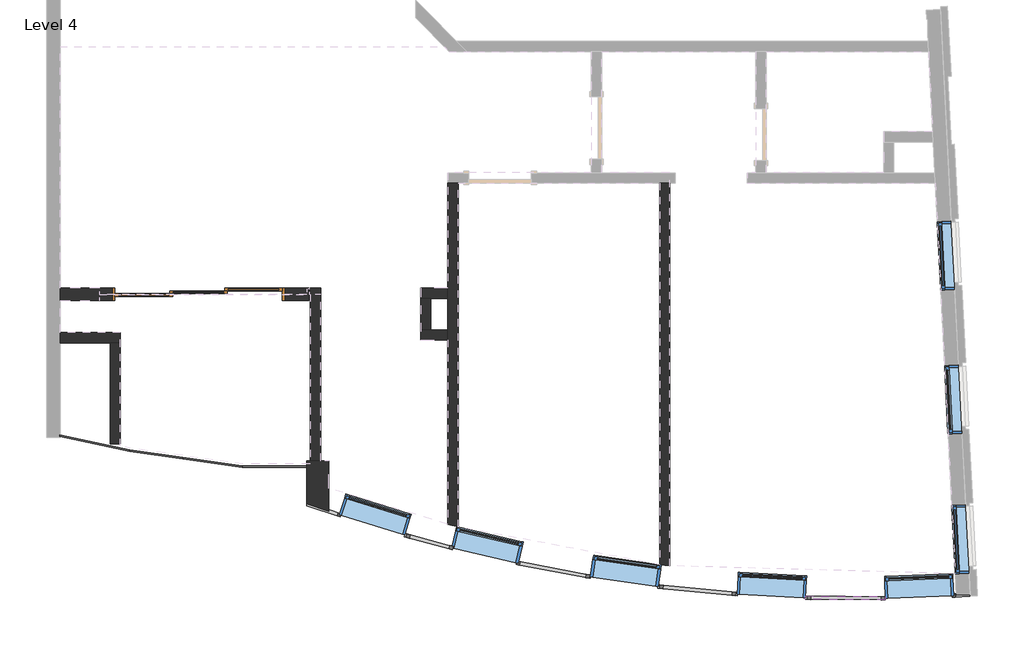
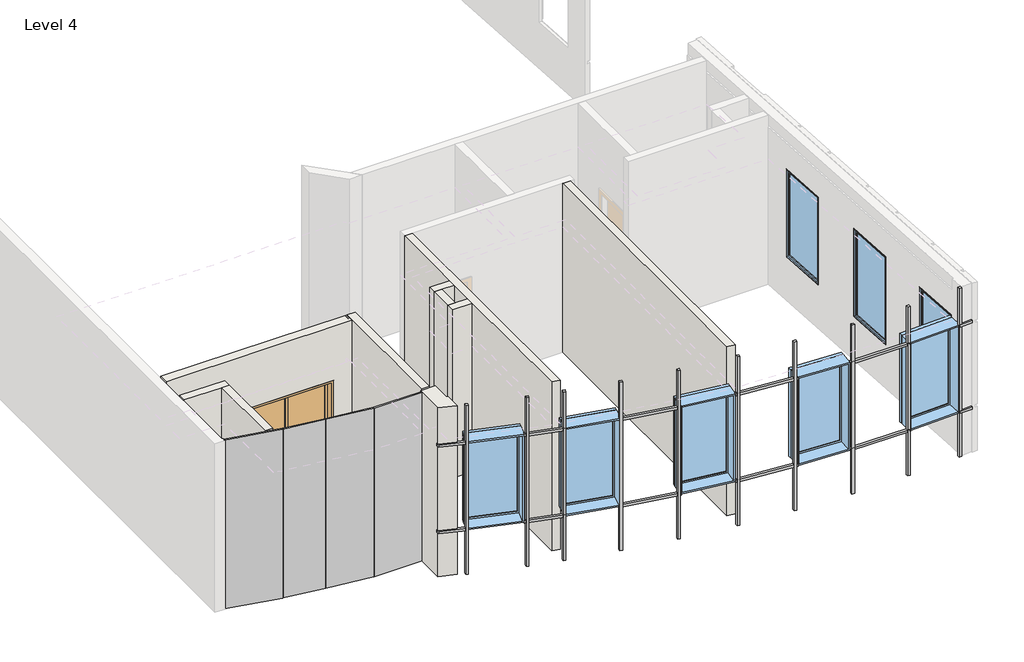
# One storey, part 1 of 5: 12 proxies, 11 walls, 8 windows, 4 plates, 1 door.
"""IFC4 building model written with IfcOpenShell, lengths in millimetres."""

from ifc_helpers import new_model, si_unit, point, frame, frame_2d, origin, place, context, project, spatial, polyline, circle_curve, trimmed, segment, composite_curve, outline, extrude, faceted_brep, transform, mapped, element, save
from ifc_brep_helpers import plane_surface, cylinder_surface, revolved_surface, advanced_brep
from components import sliding_door_3_panel_aus_type_1_135a2ec2, system_panel_glazed_6c35e85d, system_panel_glazed_aacc9fa0, system_panel_glazed_6f96cc8f, system_panel_glazed_6110bdf2, m_fixed_1000_x_1830mm_2_3397196e, m_fixed_1000_x_1830mm_2_ae03b894

model = new_model("IFC4")

# Units and contexts
model_context = context("Model", 3, world=origin())
ifc_project = project(units=[si_unit("LENGTHUNIT", "METRE", prefix="MILLI")], contexts=[model_context])

# Site, building, storey
site = spatial("IfcSite", under=ifc_project)
building = spatial("IfcBuilding", under=site)
storey = spatial("IfcBuildingStorey", under=building, Name="Level 4", Elevation=15000.0)

# Proxies
placement = place(None, origin())
element("IfcBuildingElementProxy", 1, Name="Reveal", ObjectType="Reveal", at=placement, inside=storey, context=model_context, shape_type="SweptSolid", body=[
    extrude(outline(composite_curve([segment(trimmed(circle_curve(frame_2d((11609.3245394, 10843.3737526)), 24025.0), [point((3560.252741, -11793.1690087))], [point((4041.9086857, -11958.7060275))], True, "CARTESIAN"), True, "CONTINUOUS"), segment(polyline([(4041.9086857, -11958.7060275), (4027.1474769, -12006.4887414)]), True, "CONTINUOUS"), segment(trimmed(circle_curve(frame_2d((11609.3245394, 10843.3737526)), 24075.0), [point((4027.1474769, -12006.4887414))], [point((3560.252741, -11846.2288923))], False, "CARTESIAN"), True, "CONTINUOUS"), segment(polyline([(3560.252741, -11846.2288923), (3560.252741, -11793.1690087)]), True, "CONTINUOUS")], self_intersect=False)), frame((0.0, 0.0, 15901.1018524), z_axis=(0.0, 0.0, 1.0), x_axis=(1.0, 0.0, 0.0)), (0.0, 0.0, 1.0), 50.0),
    extrude(outline(composite_curve([segment(trimmed(circle_curve(frame_2d((11609.3245394, 10843.3737526)), 24025.0), [point((13021.5895865, -13140.0816373))], [point((13258.6392504, -13124.9467139))], True, "CARTESIAN"), True, "CONTINUOUS"), segment(polyline([(13258.6392504, -13124.9467139), (13261.1814055, -13174.8900043)]), True, "CONTINUOUS"), segment(trimmed(circle_curve(frame_2d((11609.3245394, 10843.3737526)), 24075.0), [point((13261.1814055, -13174.8900043))], [point((13023.4897345, -13190.0563356))], False, "CARTESIAN"), True, "CONTINUOUS"), segment(polyline([(13023.4897345, -13190.0563356), (13021.5895865, -13140.0816373)]), True, "CONTINUOUS")], self_intersect=False)), frame((0.0, 0.0, 15901.1018524), z_axis=(0.0, 0.0, 1.0), x_axis=(1.0, 0.0, 0.0)), (0.0, 0.0, 1.0), 50.0),
    extrude(outline(composite_curve([segment(trimmed(circle_curve(frame_2d((11609.3245394, 10843.3737526)), 24025.0), [point((10855.1689112, -13169.7866868))], [point((12022.3116475, -13178.0763837))], True, "CARTESIAN"), True, "CONTINUOUS"), segment(polyline([(12022.3116475, -13178.0763837), (12024.2117955, -13228.051082)]), True, "CONTINUOUS"), segment(trimmed(circle_curve(frame_2d((11609.3245394, 10843.3737526)), 24075.0), [point((12024.2117955, -13228.051082))], [point((10852.5590945, -13219.7293528))], False, "CARTESIAN"), True, "CONTINUOUS"), segment(polyline([(10852.5590945, -13219.7293528), (10855.1689112, -13169.7866868)]), True, "CONTINUOUS")], self_intersect=False)), frame((0.0, 0.0, 15901.1018524), z_axis=(0.0, 0.0, 1.0), x_axis=(1.0, 0.0, 0.0)), (0.0, 0.0, 1.0), 50.0),
    extrude(outline(composite_curve([segment(trimmed(circle_curve(frame_2d((11609.3245394, 10843.3737526)), 24025.0), [point((8701.6675401, -13005.0256858))], [point((9856.5314794, -13117.6016343))], True, "CARTESIAN"), True, "CONTINUOUS"), segment(polyline([(9856.5314794, -13117.6016343), (9853.9216627, -13167.5443003)]), True, "CONTINUOUS"), segment(trimmed(circle_curve(frame_2d((11609.3245394, 10843.3737526)), 24075.0), [point((9853.9216627, -13167.5443003))], [point((8694.5830706, -13054.5321634))], False, "CARTESIAN"), True, "CONTINUOUS"), segment(polyline([(8694.5830706, -13054.5321634), (8701.6675401, -13005.0256858)]), True, "CONTINUOUS")], self_intersect=False)), frame((0.0, 0.0, 15901.1018524), z_axis=(0.0, 0.0, 1.0), x_axis=(1.0, 0.0, 0.0)), (0.0, 0.0, 1.0), 50.0),
    extrude(outline(composite_curve([segment(trimmed(circle_curve(frame_2d((11609.3245394, 10843.3737526)), 24025.0), [point((6655.6118444, -12665.3768636))], [point((7711.7519914, -12863.3669182))], True, "CARTESIAN"), True, "CONTINUOUS"), segment(polyline([(7711.7519914, -12863.3669182), (7704.6675219, -12912.8733958)]), True, "CONTINUOUS"), segment(trimmed(circle_curve(frame_2d((11609.3245394, 10843.3737526)), 24075.0), [point((7704.6675219, -12912.8733958))], [point((6644.2839105, -12714.0878372))], False, "CARTESIAN"), True, "CONTINUOUS"), segment(polyline([(6644.2839105, -12714.0878372), (6655.6118444, -12665.3768636)]), True, "CONTINUOUS")], self_intersect=False)), frame((0.0, 0.0, 15901.1018524), z_axis=(0.0, 0.0, 1.0), x_axis=(1.0, 0.0, 0.0)), (0.0, 0.0, 1.0), 50.0),
    extrude(outline(composite_curve([segment(trimmed(circle_curve(frame_2d((11609.3245394, 10843.3737526)), 24025.0), [point((4997.3564116, -12253.8663959))], [point((5681.6029373, -12438.8671535))], True, "CARTESIAN"), True, "CONTINUOUS"), segment(polyline([(5681.6029373, -12438.8671535), (5670.2750034, -12487.578127)]), True, "CONTINUOUS"), segment(trimmed(circle_curve(frame_2d((11609.3245394, 10843.3737526)), 24075.0), [point((5670.2750034, -12487.578127))], [point((4982.5952028, -12301.6491098))], False, "CARTESIAN"), True, "CONTINUOUS"), segment(polyline([(4982.5952028, -12301.6491098), (4997.3564116, -12253.8663959)]), True, "CONTINUOUS")], self_intersect=False)), frame((0.0, 0.0, 15901.1018524), z_axis=(0.0, 0.0, 1.0), x_axis=(1.0, 0.0, 0.0)), (0.0, 0.0, 1.0), 50.0),
])
element("IfcBuildingElementProxy", 2, Name="Reveal", ObjectType="Reveal", at=placement, inside=storey, context=model_context, shape_type="SweptSolid", body=[
    extrude(outline(composite_curve([segment(trimmed(circle_curve(frame_2d((11609.3245394, 10843.3737526)), 24025.0), [point((3560.252741, -11793.1690087))], [point((4041.9086857, -11958.7060275))], True, "CARTESIAN"), True, "CONTINUOUS"), segment(polyline([(4041.9086857, -11958.7060275), (4027.1474769, -12006.4887414)]), True, "CONTINUOUS"), segment(trimmed(circle_curve(frame_2d((11609.3245394, 10843.3737526)), 24075.0), [point((4027.1474769, -12006.4887414))], [point((3560.252741, -11846.2288923))], False, "CARTESIAN"), True, "CONTINUOUS"), segment(polyline([(3560.252741, -11846.2288923), (3560.252741, -11793.1690087)]), True, "CONTINUOUS")], self_intersect=False)), frame((0.0, 0.0, 17695.0), z_axis=(0.0, 0.0, 1.0), x_axis=(1.0, 0.0, 0.0)), (0.0, 0.0, 1.0), 50.0),
    extrude(outline(composite_curve([segment(trimmed(circle_curve(frame_2d((11609.3245394, 10843.3737526)), 24025.0), [point((13021.5895865, -13140.0816373))], [point((13258.6392504, -13124.9467139))], True, "CARTESIAN"), True, "CONTINUOUS"), segment(polyline([(13258.6392504, -13124.9467139), (13261.1814055, -13174.8900043)]), True, "CONTINUOUS"), segment(trimmed(circle_curve(frame_2d((11609.3245394, 10843.3737526)), 24075.0), [point((13261.1814055, -13174.8900043))], [point((13023.4897345, -13190.0563356))], False, "CARTESIAN"), True, "CONTINUOUS"), segment(polyline([(13023.4897345, -13190.0563356), (13021.5895865, -13140.0816373)]), True, "CONTINUOUS")], self_intersect=False)), frame((0.0, 0.0, 17695.0), z_axis=(0.0, 0.0, 1.0), x_axis=(1.0, 0.0, 0.0)), (0.0, 0.0, 1.0), 50.0),
    extrude(outline(composite_curve([segment(trimmed(circle_curve(frame_2d((11609.3245394, 10843.3737526)), 24025.0), [point((10855.1689112, -13169.7866868))], [point((12022.3116475, -13178.0763837))], True, "CARTESIAN"), True, "CONTINUOUS"), segment(polyline([(12022.3116475, -13178.0763837), (12024.2117955, -13228.051082)]), True, "CONTINUOUS"), segment(trimmed(circle_curve(frame_2d((11609.3245394, 10843.3737526)), 24075.0), [point((12024.2117955, -13228.051082))], [point((10852.5590945, -13219.7293528))], False, "CARTESIAN"), True, "CONTINUOUS"), segment(polyline([(10852.5590945, -13219.7293528), (10855.1689112, -13169.7866868)]), True, "CONTINUOUS")], self_intersect=False)), frame((0.0, 0.0, 17695.0), z_axis=(0.0, 0.0, 1.0), x_axis=(1.0, 0.0, 0.0)), (0.0, 0.0, 1.0), 50.0),
    extrude(outline(composite_curve([segment(trimmed(circle_curve(frame_2d((11609.3245394, 10843.3737526)), 24025.0), [point((8701.6675401, -13005.0256858))], [point((9856.5314794, -13117.6016343))], True, "CARTESIAN"), True, "CONTINUOUS"), segment(polyline([(9856.5314794, -13117.6016343), (9853.9216627, -13167.5443003)]), True, "CONTINUOUS"), segment(trimmed(circle_curve(frame_2d((11609.3245394, 10843.3737526)), 24075.0), [point((9853.9216627, -13167.5443003))], [point((8694.5830706, -13054.5321634))], False, "CARTESIAN"), True, "CONTINUOUS"), segment(polyline([(8694.5830706, -13054.5321634), (8701.6675401, -13005.0256858)]), True, "CONTINUOUS")], self_intersect=False)), frame((0.0, 0.0, 17695.0), z_axis=(0.0, 0.0, 1.0), x_axis=(1.0, 0.0, 0.0)), (0.0, 0.0, 1.0), 50.0),
    extrude(outline(composite_curve([segment(trimmed(circle_curve(frame_2d((11609.3245394, 10843.3737526)), 24025.0), [point((6655.6118444, -12665.3768636))], [point((7711.7519914, -12863.3669182))], True, "CARTESIAN"), True, "CONTINUOUS"), segment(polyline([(7711.7519914, -12863.3669182), (7704.6675219, -12912.8733958)]), True, "CONTINUOUS"), segment(trimmed(circle_curve(frame_2d((11609.3245394, 10843.3737526)), 24075.0), [point((7704.6675219, -12912.8733958))], [point((6644.2839105, -12714.0878372))], False, "CARTESIAN"), True, "CONTINUOUS"), segment(polyline([(6644.2839105, -12714.0878372), (6655.6118444, -12665.3768636)]), True, "CONTINUOUS")], self_intersect=False)), frame((0.0, 0.0, 17695.0), z_axis=(0.0, 0.0, 1.0), x_axis=(1.0, 0.0, 0.0)), (0.0, 0.0, 1.0), 50.0),
    extrude(outline(composite_curve([segment(trimmed(circle_curve(frame_2d((11609.3245394, 10843.3737526)), 24025.0), [point((4997.3564116, -12253.8663959))], [point((5681.6029373, -12438.8671535))], True, "CARTESIAN"), True, "CONTINUOUS"), segment(polyline([(5681.6029373, -12438.8671535), (5670.2750034, -12487.578127)]), True, "CONTINUOUS"), segment(trimmed(circle_curve(frame_2d((11609.3245394, 10843.3737526)), 24075.0), [point((5670.2750034, -12487.578127))], [point((4982.5952028, -12301.6491098))], False, "CARTESIAN"), True, "CONTINUOUS"), segment(polyline([(4982.5952028, -12301.6491098), (4997.3564116, -12253.8663959)]), True, "CONTINUOUS")], self_intersect=False)), frame((0.0, 0.0, 17695.0), z_axis=(0.0, 0.0, 1.0), x_axis=(1.0, 0.0, 0.0)), (0.0, 0.0, 1.0), 50.0),
])
element("IfcBuildingElementProxy", 3, Name="Reveal", ObjectType="Reveal", at=placement, inside=storey, context=model_context, shape_type="SweptSolid", body=[
    extrude(outline(polyline([(10930.2286023, -13172.0396044), (10928.7632845, -13222.0181283), (10878.7847607, -13220.5528105), (10880.2500785, -13170.5742866), (10930.2286023, -13172.0396044)])), frame((0.0, 0.0, 15000.0), z_axis=(0.0, 0.0, 1.0), x_axis=(1.0, 0.0, 0.0)), (0.0, 0.0, 1.0), 3500.0),
])
element("IfcBuildingElementProxy", 4, Name="Reveal", ObjectType="Reveal", at=placement, inside=storey, context=model_context, shape_type="SweptSolid", body=[
    extrude(outline(polyline([(9833.8791093, -13115.9468456), (9830.1322307, -13165.8062569), (9780.2728194, -13162.0593784), (9784.0196979, -13112.199967), (9833.8791093, -13115.9468456)])), frame((0.0, 0.0, 15000.0), z_axis=(0.0, 0.0, 1.0), x_axis=(1.0, 0.0, 0.0)), (0.0, 0.0, 1.0), 3500.0),
])
element("IfcBuildingElementProxy", 5, Name="Reveal", ObjectType="Reveal", at=placement, inside=storey, context=model_context, shape_type="SweptSolid", body=[
    extrude(outline(polyline([(8775.1009531, -13013.8772765), (8769.1508054, -13063.5219715), (8719.5061104, -13057.5718239), (8725.456258, -13007.9271288), (8775.1009531, -13013.8772765)])), frame((0.0, 0.0, 15000.0), z_axis=(0.0, 0.0, 1.0), x_axis=(1.0, 0.0, 0.0)), (0.0, 0.0, 1.0), 3500.0),
])
element("IfcBuildingElementProxy", 6, Name="Reveal", ObjectType="Reveal", at=placement, inside=storey, context=model_context, shape_type="SweptSolid", body=[
    extrude(outline(polyline([(5071.1541458, -12274.8782987), (5057.4970808, -12322.9769948), (5009.3983846, -12309.3199298), (5023.0554496, -12261.2212336), (5071.1541458, -12274.8782987)])), frame((0.0, 0.0, 15000.0), z_axis=(0.0, 0.0, 1.0), x_axis=(1.0, 0.0, 0.0)), (0.0, 0.0, 1.0), 3500.0),
])
element("IfcBuildingElementProxy", 7, Name="Reveal", ObjectType="Reveal", at=placement, inside=storey, context=model_context, shape_type="SweptSolid", body=[
    extrude(outline(polyline([(5700.3597547, -12443.6480659), (5688.0118038, -12492.0993621), (5639.5605075, -12479.7514112), (5651.9084585, -12431.3001149), (5700.3597547, -12443.6480659)])), frame((0.0, 0.0, 15000.0), z_axis=(0.0, 0.0, 1.0), x_axis=(1.0, 0.0, 0.0)), (0.0, 0.0, 1.0), 3500.0),
])
element("IfcBuildingElementProxy", 8, Name="Reveal", ObjectType="Reveal", at=placement, inside=storey, context=model_context, shape_type="SweptSolid", body=[
    extrude(outline(polyline([(6679.5658779, -12670.4249524), (6669.2553236, -12719.350329), (6620.329947, -12709.0397746), (6630.6405014, -12660.1143981), (6679.5658779, -12670.4249524)])), frame((0.0, 0.0, 15000.0), z_axis=(0.0, 0.0, 1.0), x_axis=(1.0, 0.0, 0.0)), (0.0, 0.0, 1.0), 3500.0),
])
element("IfcBuildingElementProxy", 9, Name="Reveal", ObjectType="Reveal", at=placement, inside=storey, context=model_context, shape_type="SweptSolid", body=[
    extrude(outline(polyline([(7698.414481, -12861.1834573), (7690.2239038, -12910.5080398), (7640.8993212, -12902.3174626), (7649.0898984, -12852.9928801), (7698.414481, -12861.1834573)])), frame((0.0, 0.0, 15000.0), z_axis=(0.0, 0.0, 1.0), x_axis=(1.0, 0.0, 0.0)), (0.0, 0.0, 1.0), 3500.0),
])
element("IfcBuildingElementProxy", 10, Name="Reveal", ObjectType="Reveal", at=placement, inside=storey, context=model_context, shape_type="SweptSolid", body=[
    extrude(outline(polyline([(12013.3333991, -13178.2420724), (12014.1221857, -13228.2358501), (11964.1284079, -13229.0246368), (11963.3396213, -13179.030859), (12013.3333991, -13178.2420724)])), frame((0.0, 0.0, 15000.0), z_axis=(0.0, 0.0, 1.0), x_axis=(1.0, 0.0, 0.0)), (0.0, 0.0, 1.0), 3500.0),
])
element("IfcBuildingElementProxy", 11, Name="Reveal", ObjectType="Reveal", at=placement, inside=storey, context=model_context, shape_type="SweptSolid", body=[
    extrude(outline(polyline([(13046.0274649, -13138.6431498), (13048.9655422, -13188.5567521), (12999.0519398, -13191.4948294), (12996.1138625, -13141.581227), (13046.0274649, -13138.6431498)])), frame((0.0, 0.0, 15000.0), z_axis=(0.0, 0.0, 1.0), x_axis=(1.0, 0.0, 0.0)), (0.0, 0.0, 1.0), 3500.0),
])
element("IfcBuildingElementProxy", 12, Name="Reveal", ObjectType="Reveal", at=placement, inside=storey, context=model_context, shape_type="SweptSolid", body=[
    extrude(outline(polyline([(4066.129757, -11966.7437937), (4050.3817395, -12014.1990352), (4002.926498, -11998.4510177), (4018.6745155, -11950.9957762), (4066.129757, -11966.7437937)])), frame((0.0, 0.0, 15000.0), z_axis=(0.0, 0.0, 1.0), x_axis=(1.0, 0.0, 0.0)), (0.0, 0.0, 1.0), 3500.0),
])

# Door
sliding_door_3_panel_aus_type_1_shape = sliding_door_3_panel_aus_type_1_135a2ec2(model_context)
element("IfcDoor", 13, ObjectType="Sliding Door - 3 Panel (AUS) : Type 1", at=placement, inside=storey, context=model_context, shape_type="MappedRepresentation", body=[
    mapped(sliding_door_3_panel_aus_type_1_shape, transform((2060.7158708, -8752.2362629, 15000.0), x_axis=(-1.0, 0.0, 0.0), y_axis=(0.0, -1.0, 0.0), z_axis=(0.0, 0.0, 1.0))),
])

# Plates
system_panel_glazed_shape = system_panel_glazed_6c35e85d(model_context)
element("IfcPlate", 14, ObjectType="System Panel : Glazed", at=placement, inside=storey, context=model_context, shape_type="MappedRepresentation", body=[
    mapped(system_panel_glazed_shape, transform((3090.252741, -11236.9456492, 15000.0), x_axis=(-1.0, 0.0, 0.0), y_axis=(0.0, -1.0, 0.0), z_axis=(0.0, 0.0, 1.0))),
])
system_panel_glazed_2_shape = system_panel_glazed_aacc9fa0(model_context)
element("IfcPlate", 15, ObjectType="System Panel : Glazed", at=placement, inside=storey, context=model_context, shape_type="MappedRepresentation", body=[
    mapped(system_panel_glazed_2_shape, transform((2183.3563773, -11175.5438696, 15000.0), x_axis=(-0.9902680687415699, 0.1391731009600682, 0.0), y_axis=(-0.1391731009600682, -0.9902680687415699, 0.0), z_axis=(0.0, 0.0, 1.0))),
])
system_panel_glazed_3_shape = system_panel_glazed_6f96cc8f(model_context)
element("IfcPlate", 16, ObjectType="System Panel : Glazed", at=placement, inside=storey, context=model_context, shape_type="MappedRepresentation", body=[
    mapped(system_panel_glazed_3_shape, transform((1360.2554668, -11059.8645806, 15000.0), x_axis=(-0.9902680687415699, 0.13917310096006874, 0.0), y_axis=(-0.13917310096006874, -0.9902680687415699, 0.0), z_axis=(0.0, 0.0, 1.0))),
])
system_panel_glazed_4_shape = system_panel_glazed_6110bdf2(model_context)
element("IfcPlate", 17, ObjectType="System Panel : Glazed", at=placement, inside=storey, context=model_context, shape_type="MappedRepresentation", body=[
    mapped(system_panel_glazed_4_shape, transform((462.0043948, -10896.7482224, 15000.0), x_axis=(-0.9781476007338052, 0.20791169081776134, 0.0), y_axis=(-0.20791169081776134, -0.9781476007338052, 0.0), z_axis=(0.0, 0.0, 1.0))),
])

# Walls
element("IfcWall", 18, ObjectType="Generic - 20cm-gypsum-kamposite", at=placement, inside=storey, context=model_context, shape_type="AdvancedBrep", body=[
    advanced_brep(
    [(3880.252741, -11930.821055, 15000.0), (3880.252741, -11592.6318887, 15000.0), (3880.252741, -11189.3160932, 15000.0), (3880.252741, -11189.3160932, 18259.0), (3880.252741, -11592.6318887, 18259.0), (3880.252741, -11624.3597587, 18259.0), (3880.252741, -11624.3597587, 18500.0), (3880.252741, -11930.821055, 18500.0), (3880.252741, -11930.821055, 17745.0), (3880.252741, -11904.4189785, 17745.0), (3880.252741, -11904.4189785, 17695.0), (3880.252741, -11930.821055, 17695.0), (3880.252741, -11930.821055, 15951.1018524), (3880.252741, -11904.4189785, 15951.1018524), (3880.252741, -11904.4189785, 15901.1018524), (3880.252741, -11930.821055, 15901.1018524), (3560.252741, -11189.3160932, 15000.0), (3560.252741, -11819.7006899, 15000.0), (3560.252741, -11819.7006899, 15901.1018524), (3560.252741, -11793.1690087, 15901.1018524), (3560.252741, -11793.1690087, 15951.1018524), (3560.252741, -11819.7006899, 15951.1018524), (3560.252741, -11819.7006899, 17695.0), (3560.252741, -11793.1690087, 17695.0), (3560.252741, -11793.1690087, 17745.0), (3560.252741, -11819.7006899, 17745.0), (3560.252741, -11819.7006899, 18500.0), (3560.252741, -11236.9456492, 18500.0), (3560.252741, -11236.9456492, 18259.0), (3560.252741, -11189.3160932, 18259.0), (3610.252741, -11189.3160932, 15000.0), (3760.252741, -11189.3160932, 15000.0), (3850.252741, -11614.0171205, 18500.0), (3850.252741, -11236.9456492, 18500.0), (3850.252741, -11236.9456492, 18259.0), (3850.252741, -11614.0171205, 18259.0)],
    [
        (0, 1),
        (1, 2),
        (2, 3),
        (3, 4),
        (4, 5),
        (5, 6),
        (6, 7),
        (7, 8),
        (8, 9),
        (9, 10),
        (10, 11),
        (11, 12),
        (12, 13),
        (13, 14),
        (14, 15),
        (15, 0),
        (16, 17),
        (17, 18),
        (18, 19),
        (19, 20),
        (20, 21),
        (21, 22),
        (22, 23),
        (23, 24),
        (24, 25),
        (25, 26),
        (26, 27),
        (27, 28),
        (28, 29),
        (29, 16),
        (0, 17, circle_curve(frame((11609.3245394, 10843.3737526, 15000.0), z_axis=(0.0, 0.0, -1.0), x_axis=(-0.33468074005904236, -0.942331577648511, 0.0)), 24050.0)),
        (16, 30),
        (30, 31),
        (31, 2),
        (29, 3),
        (26, 7, circle_curve(frame((11609.3245394, 10843.3737526, 18500.0), z_axis=(0.0, 0.0, 1.0), x_axis=(-0.33468074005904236, -0.942331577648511, 0.0)), 24050.0)),
        (6, 32, circle_curve(frame((11609.3245394, 10843.3737526, 18500.0), z_axis=(0.0, 0.0, -1.0), x_axis=(1.0, 0.0, 0.0)), 23760.0)),
        (32, 33),
        (33, 27),
        (25, 8, circle_curve(frame((11609.3245394, 10843.3737526, 17745.0), z_axis=(0.0, 0.0, 1.0), x_axis=(-0.33468074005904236, -0.942331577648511, 0.0)), 24050.0)),
        (15, 18, circle_curve(frame((11609.3245394, 10843.3737526, 15901.1018524), z_axis=(0.0, 0.0, -1.0), x_axis=(-0.33468074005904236, -0.942331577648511, 0.0)), 24050.0)),
        (21, 12, circle_curve(frame((11609.3245394, 10843.3737526, 15951.1018524), z_axis=(0.0, 0.0, 1.0), x_axis=(-0.33468074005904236, -0.942331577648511, 0.0)), 24050.0)),
        (11, 22, circle_curve(frame((11609.3245394, 10843.3737526, 17695.0), z_axis=(0.0, 0.0, -1.0), x_axis=(-0.33468074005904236, -0.942331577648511, 0.0)), 24050.0)),
        (20, 13, circle_curve(frame((11609.3245394, 10843.3737526, 15951.1018524), z_axis=(0.0, 0.0, 1.0), x_axis=(-0.3149603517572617, -0.9491048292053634, 0.0)), 24025.0)),
        (14, 19, circle_curve(frame((11609.3245394, 10843.3737526, 15901.1018524), z_axis=(0.0, 0.0, -1.0), x_axis=(-0.3149603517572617, -0.9491048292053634, 0.0)), 24025.0)),
        (24, 9, circle_curve(frame((11609.3245394, 10843.3737526, 17745.0), z_axis=(0.0, 0.0, 1.0), x_axis=(-0.3149603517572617, -0.9491048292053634, 0.0)), 24025.0)),
        (10, 23, circle_curve(frame((11609.3245394, 10843.3737526, 17695.0), z_axis=(0.0, 0.0, -1.0), x_axis=(-0.3149603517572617, -0.9491048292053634, 0.0)), 24025.0)),
        (34, 35),
        (35, 5, circle_curve(frame((11609.3245394, 10843.3737526, 18259.0), z_axis=(0.0, 0.0, 1.0), x_axis=(1.0, 0.0, 0.0)), 23760.0)),
        (28, 34),
        (35, 32),
        (34, 33),
    ],
    [
        plane_surface(frame((3880.252741, -11283.4147586, 15000.0), z_axis=(1.0, 0.0, 0.0), x_axis=(0.0, 1.0, 0.0))),
        plane_surface(frame((3560.252741, -11283.4147586, 15000.0), z_axis=(-1.0, 0.0, 0.0), x_axis=(0.0, -1.0, 0.0))),
        plane_surface(frame((3880.252741, -11706.4521039, 15000.0), z_axis=(0.0, 0.0, -1.0), x_axis=(-1.0, 0.0, 0.0))),
        plane_surface(frame((3880.252741, -11189.3160932, 15000.0), z_axis=(0.0, 1.0, 0.0), x_axis=(-1.0, 0.0, 0.0))),
        plane_surface(frame((3880.252741, -11189.3160932, 18500.0), z_axis=(0.0, 0.0, 1.0), x_axis=(-1.0, 0.0, 0.0))),
        cylinder_surface(frame((11609.3245394, 10843.3737526, 15000.0), z_axis=(0.0, 0.0, 1.0), x_axis=(-0.33468074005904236, -0.942331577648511, 0.0)), 24050.0),
        plane_surface(frame((11609.3245394, 10843.3737526, 15951.1018524), z_axis=(0.0, 0.0, -1.0), x_axis=(-0.3149603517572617, -0.9491048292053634, 0.0))),
        plane_surface(frame((11609.3245394, 10843.3737526, 15901.1018524), z_axis=(0.0, 0.0, 1.0), x_axis=(-0.3149603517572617, -0.9491048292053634, 0.0))),
        cylinder_surface(frame((11609.3245394, 10843.3737526, 15926.1018524), z_axis=(0.0, 0.0, -1.0), x_axis=(-0.3149603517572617, -0.9491048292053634, 0.0)), 24025.0),
        plane_surface(frame((11609.3245394, 10843.3737526, 17745.0), z_axis=(0.0, 0.0, -1.0), x_axis=(-0.3149603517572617, -0.9491048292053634, 0.0))),
        plane_surface(frame((11609.3245394, 10843.3737526, 17695.0), z_axis=(0.0, 0.0, 1.0), x_axis=(-0.3149603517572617, -0.9491048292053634, 0.0))),
        cylinder_surface(frame((11609.3245394, 10843.3737526, 17720.0), z_axis=(0.0, 0.0, -1.0), x_axis=(-0.3149603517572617, -0.9491048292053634, 0.0)), 24025.0),
        plane_surface(frame((-80.0421304, 14944.8648867, 18259.0), z_axis=(0.0, 0.0, 1.0), x_axis=(0.9323005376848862, -0.36168454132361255, 0.0))),
        revolved_surface(polyline([(35369.3245394, 10843.3737526, 18259.0), (35369.3245394, 10843.3737526, 18500.0)]), (11609.3245394, 10843.3737526, 18500.0), (0.0, 0.0, -1.0)),
        plane_surface(frame((3850.252741, -11614.0171205, 18259.0), z_axis=(1.0, 0.0, 0.0), x_axis=(0.0, 0.0, 1.0))),
        plane_surface(frame((3850.252741, -11236.9456492, 18259.0), z_axis=(0.0, 1.0, 0.0), x_axis=(0.0, 0.0, 1.0))),
    ],
    [
        (0, [[1, 2, 3, 4, 5, 6, 7, 8, 9, 10, 11, 12, 13, 14, 15, 16]]),
        (1, [[17, 18, 19, 20, 21, 22, 23, 24, 25, 26, 27, 28, 29, 30]]),
        (2, [[-2, -1, 31, -17, 32, 33, 34]]),
        (3, [[-34, -33, -32, -30, 35, -3]]),
        (4, [[36, -7, 37, 38, 39, -27]]),
        (5, [[-36, -26, 40, -8]]),
        (5, [[-31, -16, 41, -18]]),
        (5, [[42, -12, 43, -22]]),
        (6, [[44, -13, -42, -21]]),
        (7, [[45, -19, -41, -15]]),
        (8, [[-44, -20, -45, -14]]),
        (9, [[46, -9, -40, -25]]),
        (10, [[47, -23, -43, -11]]),
        (11, [[-46, -24, -47, -10]]),
        (12, [[48, 49, -5, -4, -35, -29, 50]]),
        (13, [[51, -37, -6, -49]]),
        (14, [[-48, 52, -38, -51]]),
        (15, [[-52, -50, -28, -39]]),
    ],
),
])
element("IfcWall", 19, ObjectType="Generic - 15cm-gypsu-2boith", at=placement, inside=storey, context=model_context, shape_type="SweptSolid", body=[
    extrude(outline(composite_curve([segment(polyline([(8720.2907737, -12710.1054788), (8720.2907737, -7123.7981953), (8870.2907737, -7123.7981953), (8870.2907737, -12728.0198004)]), True, "CONTINUOUS"), segment(trimmed(circle_curve(frame_2d((11609.3245394, 10843.3737526)), 23730.0), [point((8870.2907737, -12728.0198004))], [point((8720.2907737, -12710.1054788))], False, "CARTESIAN"), True, "CONTINUOUS")], self_intersect=False)), frame((0.0, 0.0, 15000.0), z_axis=(0.0, 0.0, 1.0), x_axis=(1.0, 0.0, 0.0)), (0.0, 0.0, 1.0), 3500.0),
])
element("IfcWall", 20, ObjectType="Generic - 15cm-gypsu-2boith", at=placement, inside=storey, context=model_context, shape_type="AdvancedBrep", body=[
    advanced_brep(
    [(5620.2907737, -7123.7981953, 15000.0), (5620.2907737, -8662.29082, 15000.0), (5620.2907737, -8812.29082, 15000.0), (5620.2907737, -9272.4272222, 15000.0), (5620.2907737, -9422.4272222, 15000.0), (5620.2907737, -12118.4287584, 15000.0), (5620.2907737, -12118.4287584, 18500.0), (5620.2907737, -9422.4272222, 18500.0), (5620.2907737, -9272.4272222, 18500.0), (5620.2907737, -8812.29082, 18500.0), (5620.2907737, -8662.29082, 18500.0), (5620.2907737, -7123.7981953, 18500.0), (5770.2907737, -7123.7981953, 15000.0), (5770.2907737, -7123.7981953, 18500.0), (5770.2907737, -12157.0302587, 18500.0), (5770.2907737, -12157.0302587, 15000.0)],
    [
        (0, 1),
        (1, 2),
        (2, 3),
        (3, 4),
        (4, 5),
        (5, 6),
        (6, 7),
        (7, 8),
        (8, 9),
        (9, 10),
        (10, 11),
        (11, 0),
        (12, 13),
        (13, 14),
        (14, 15),
        (15, 12),
        (0, 12),
        (15, 5, circle_curve(frame((11609.3245394, 10843.3737526, 15000.0), z_axis=(0.0, 0.0, -1.0), x_axis=(-0.33468074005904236, -0.942331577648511, 0.0)), 23730.0)),
        (6, 14, circle_curve(frame((11609.3245394, 10843.3737526, 18500.0), z_axis=(0.0, 0.0, 1.0), x_axis=(-0.33468074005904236, -0.942331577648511, 0.0)), 23730.0)),
        (13, 11),
    ],
    [
        plane_surface(frame((5620.2907737, -7123.7981953, 15000.0), z_axis=(-1.0, 0.0, 0.0), x_axis=(0.0, -1.0, 0.0))),
        plane_surface(frame((5770.2907737, -7123.7981953, 15000.0), z_axis=(1.0, 0.0, 0.0), x_axis=(0.0, 1.0, 0.0))),
        plane_surface(frame((5620.2907737, -7048.7981953, 15000.0), z_axis=(0.0, 0.0, -1.0), x_axis=(1.0, 0.0, 0.0))),
        plane_surface(frame((5620.2907737, -12303.036436, 18500.0), z_axis=(0.0, 0.0, 1.0), x_axis=(1.0, 0.0, 0.0))),
        cylinder_surface(frame((11609.3245394, 10843.3737526, 15000.0), z_axis=(0.0, 0.0, -1.0), x_axis=(-0.33468074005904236, -0.942331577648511, 0.0)), 23730.0),
        plane_surface(frame((8730.3395953, -7123.7981953, 15000.0), z_axis=(0.0, 1.0, 0.0), x_axis=(1.0, 0.0, 0.0))),
    ],
    [
        (0, [[1, 2, 3, 4, 5, 6, 7, 8, 9, 10, 11, 12]]),
        (1, [[13, 14, 15, 16]]),
        (2, [[-5, -4, -3, -2, -1, 17, -16, 18]]),
        (3, [[-11, -10, -9, -8, -7, 19, -14, 20]]),
        (4, [[-6, -18, -15, -19]]),
        (5, [[-12, -20, -13, -17]]),
    ],
),
])
element("IfcWall", 21, ObjectType="Generic - 15cm-gypsu-2boith", at=placement, inside=storey, context=model_context, shape_type="Brep", body=[
    faceted_brep([(5620.2907737, -9272.4272222, 15000.0), (5373.5699518, -9272.4272222, 15000.0), (5223.5699518, -9272.4272222, 15000.0), (5223.5699518, -9272.4272222, 18500.0), (5373.5699518, -9272.4272222, 18500.0), (5620.2907737, -9272.4272222, 18500.0), (5620.2907737, -9422.4272222, 15000.0), (5620.2907737, -9422.4272222, 18500.0), (5223.5699518, -9422.4272222, 18500.0), (5223.5699518, -9422.4272222, 15000.0)], [[[0, 1, 2, 3, 4, 5]], [[6, 7, 8, 9]], [[2, 1, 0, 6, 9]], [[5, 4, 3, 8, 7]], [[0, 5, 7, 6]], [[3, 2, 9, 8]]]),
])
element("IfcWall", 22, ObjectType="Generic - 15cm-gypsu-2boith", at=placement, inside=storey, context=model_context, shape_type="SweptSolid", body=[
    extrude(outline(polyline([(5373.5699518, -8812.29082), (5373.5699518, -9272.4272222), (5223.5699518, -9272.4272222), (5223.5699518, -8812.29082), (5373.5699518, -8812.29082)])), frame((0.0, 0.0, 15000.0), z_axis=(0.0, 0.0, 1.0), x_axis=(1.0, 0.0, 0.0)), (0.0, 0.0, 1.0), 3500.0),
])
element("IfcWall", 23, ObjectType="Generic - 15cm-gypsu-2boith", at=placement, inside=storey, context=model_context, shape_type="Brep", body=[
    faceted_brep([(5223.5699518, -8812.29082, 15000.0), (5373.5699518, -8812.29082, 15000.0), (5620.2907737, -8812.29082, 15000.0), (5620.2907737, -8812.29082, 18500.0), (5373.5699518, -8812.29082, 18500.0), (5223.5699518, -8812.29082, 18500.0), (5223.5699518, -8662.29082, 15000.0), (5223.5699518, -8662.29082, 18500.0), (5620.2907737, -8662.29082, 18500.0), (5620.2907737, -8662.29082, 15000.0)], [[[0, 1, 2, 3, 4, 5]], [[6, 7, 8, 9]], [[2, 1, 0, 6, 9]], [[5, 4, 3, 8, 7]], [[0, 5, 7, 6]], [[3, 2, 9, 8]]]),
])
element("IfcWall", 24, ObjectType="Generic - 10cm-gypsu-2boith", at=placement, inside=storey, context=model_context, shape_type="SweptSolid", body=[
    extrude(outline(polyline([(3557.6788606, -8673.6141586), (3600.5670169, -8673.6141586), (3600.5670169, -8773.6141586), (3557.6788606, -8773.6141586), (3557.6788606, -8673.6141586)])), frame((0.0, 0.0, 15000.0), z_axis=(0.0, 0.0, 1.0), x_axis=(1.0, 0.0, 0.0)), (0.0, 0.0, 1.0), 3500.0),
])
element("IfcWall", 25, ObjectType="Generic - 15cm-gypsu-2boith", at=placement, inside=storey, context=model_context, shape_type="Brep", body=[
    faceted_brep([(829.9393362, -9312.1185157, 15000.0), (-50.0421304, -9312.1185157, 15000.0), (-50.0421304, -9312.1185157, 18500.0), (829.9393362, -9312.1185157, 18500.0), (829.9393362, -9462.1185157, 15000.0), (829.9393362, -9462.1185157, 18500.0), (679.9393362, -9462.1185157, 18500.0), (-50.0421304, -9462.1185157, 18500.0), (-50.0421304, -9462.1185157, 15000.0), (679.9393362, -9462.1185157, 15000.0)], [[[0, 1, 2, 3]], [[4, 5, 6, 7, 8, 9]], [[1, 0, 4, 9, 8]], [[3, 2, 7, 6, 5]], [[2, 1, 8, 7]], [[0, 3, 5, 4]]]),
])
element("IfcWall", 26, ObjectType="Generic - 15cm-gypsu-2boith", at=placement, inside=storey, context=model_context, shape_type="SweptSolid", body=[
    extrude(outline(polyline([(679.9393362, -10941.9462756), (679.9393362, -9462.1185157), (829.9393362, -9462.1185157), (829.9393362, -10941.9462756), (679.9393362, -10941.9462756)])), frame((0.0, 0.0, 15000.0), z_axis=(0.0, 0.0, 1.0), x_axis=(1.0, 0.0, 0.0)), (0.0, 0.0, 1.0), 3500.0),
])
element("IfcWall", 27, ObjectType="Generic - 18cm-gypsu-2boith 2", at=placement, inside=storey, context=model_context, shape_type="SweptSolid", body=[
    extrude(outline(polyline([(18500.0, 3589.9578696), (18500.0, -50.0421304), (15000.0, -50.0421304), (15000.0, 709.9578696), (17383.0, 709.9578696), (17383.0, 3239.9578696), (15000.0, 3239.9578696), (15000.0, 3589.9578696), (18500.0, 3589.9578696)])), frame((0.0, -8842.2362629, 0.0), z_axis=(0.0, 1.0, 0.0), x_axis=(0.0, 0.0, 1.0)), (0.0, 0.0, 1.0), 180.0),
])
element("IfcWall", 28, ObjectType="Generic - 15cm-granit 2", at=placement, inside=storey, context=model_context, shape_type="SweptSolid", body=[
    extrude(outline(polyline([(3610.252741, -11189.3160932), (3610.252741, -8662.29082), (3760.252741, -8662.29082), (3760.252741, -11189.3160932), (3610.252741, -11189.3160932)])), frame((0.0, 0.0, 15000.0), z_axis=(0.0, 0.0, 1.0), x_axis=(1.0, 0.0, 0.0)), (0.0, 0.0, 1.0), 3500.0),
])

# Windows
m_fixed_1000_x_1830mm_2_shape = m_fixed_1000_x_1830mm_2_3397196e(model_context)
element("IfcWindow", 29, ObjectType="M_Fixed : 1000 x 1830mm 2", at=placement, inside=storey, context=model_context, shape_type="MappedRepresentation", body=[
    mapped(m_fixed_1000_x_1830mm_2_shape, transform((13131.5568795, -12339.6994395, 15595.0), x_axis=(-0.05083502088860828, 0.9987070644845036, 0.0), y_axis=(-0.9987070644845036, -0.05083502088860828, 0.0), z_axis=(0.0, 0.0, 1.0))),
])
element("IfcWindow", 30, ObjectType="M_Fixed : 1000 x 1830mm 2", at=placement, inside=storey, context=model_context, shape_type="MappedRepresentation", body=[
    mapped(m_fixed_1000_x_1830mm_2_shape, transform((13027.3450867, -10292.3499573, 15595.0), x_axis=(-0.05083502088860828, 0.9987070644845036, 0.0), y_axis=(-0.9987070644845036, -0.05083502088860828, 0.0), z_axis=(0.0, 0.0, 1.0))),
])
element("IfcWindow", 31, ObjectType="M_Fixed : 1000 x 1830mm 2", at=placement, inside=storey, context=model_context, shape_type="MappedRepresentation", body=[
    mapped(m_fixed_1000_x_1830mm_2_shape, transform((12920.0831926, -8185.0780513, 15595.0), x_axis=(-0.05083502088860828, 0.9987070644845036, 0.0), y_axis=(-0.9987070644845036, -0.05083502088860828, 0.0), z_axis=(0.0, 0.0, 1.0))),
])
m_fixed_1000_x_1830mm_2_2_shape = m_fixed_1000_x_1830mm_2_ae03b894(model_context)
element("IfcWindow", 32, ObjectType="M_Fixed : 1000 x 1830mm 2", at=placement, inside=storey, context=model_context, shape_type="MappedRepresentation", body=[
    mapped(m_fixed_1000_x_1830mm_2_2_shape, transform((12517.3154635, -13037.1725082, 15595.0), x_axis=(0.9992779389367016, 0.037994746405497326, 0.0), y_axis=(-0.037994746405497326, 0.9992779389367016, 0.0), z_axis=(0.0, 0.0, 1.0))),
])
element("IfcWindow", 33, ObjectType="M_Fixed : 1000 x 1830mm 2", at=placement, inside=storey, context=model_context, shape_type="MappedRepresentation", body=[
    mapped(m_fixed_1000_x_1830mm_2_2_shape, transform((10362.2164894, -13021.8657967, 15595.0), x_axis=(0.998637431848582, -0.05218505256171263, 0.0), y_axis=(0.05218505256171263, 0.998637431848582, 0.0), z_axis=(0.0, 0.0, 1.0))),
])
element("IfcWindow", 34, ObjectType="M_Fixed : 1000 x 1830mm 2", at=placement, inside=storey, context=model_context, shape_type="MappedRepresentation", body=[
    mapped(m_fixed_1000_x_1830mm_2_2_shape, transform((8223.991369, -12813.4319607, 15595.0), x_axis=(0.989915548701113, -0.14165876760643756, 0.0), y_axis=(0.14165876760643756, 0.989915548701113, 0.0), z_axis=(0.0, 0.0, 1.0))),
])
element("IfcWindow", 35, ObjectType="M_Fixed : 1000 x 1830mm 2", at=placement, inside=storey, context=model_context, shape_type="MappedRepresentation", body=[
    mapped(m_fixed_1000_x_1830mm_2_2_shape, transform((6196.24035, -12433.2981915, 15595.0), x_axis=(0.9740089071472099, -0.22650971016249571, 0.0), y_axis=(0.22650971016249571, 0.9740089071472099, 0.0), z_axis=(0.0, 0.0, 1.0))),
])
element("IfcWindow", 36, ObjectType="M_Fixed : 1000 x 1830mm 2", at=placement, inside=storey, context=model_context, shape_type="MappedRepresentation", body=[
    mapped(m_fixed_1000_x_1830mm_2_2_shape, transform((4555.6405167, -11989.7267583, 15595.0), x_axis=(0.9554477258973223, -0.2951603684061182, 0.0), y_axis=(0.2951603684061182, 0.9554477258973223, 0.0), z_axis=(0.0, 0.0, 1.0))),
])

save(model, "model.ifc")
